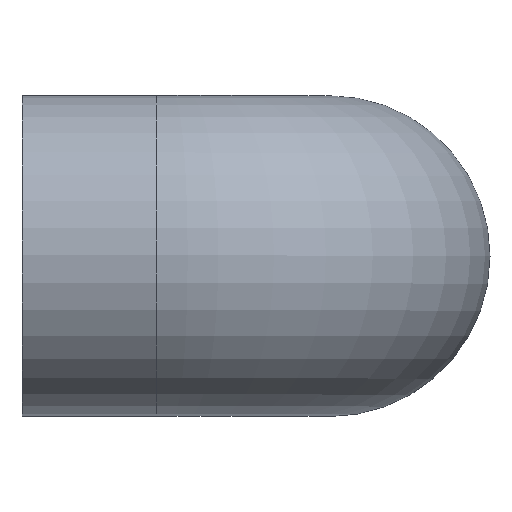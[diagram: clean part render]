
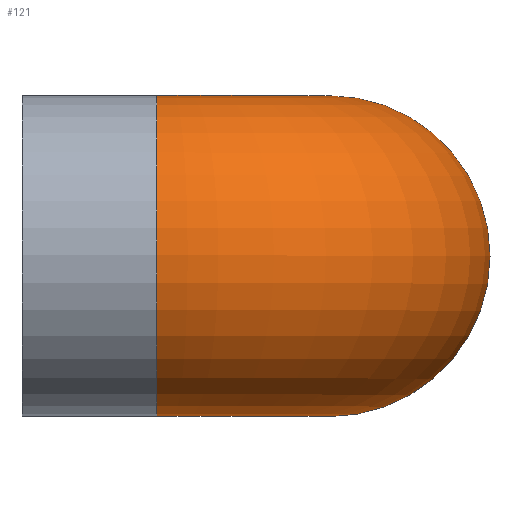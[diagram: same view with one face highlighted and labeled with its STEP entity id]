
A CAD part, top view. The second image highlights one B-rep face of the part: STEP entity #121.
In plain terms, the highlighted toroidal (fillet/blend) face has major radius 27 mm and minor radius 25 mm.
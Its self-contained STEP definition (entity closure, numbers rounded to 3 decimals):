
#29=FACE_BOUND('',#56,.T.);
#39=FACE_OUTER_BOUND('',#55,.T.);
#55=EDGE_LOOP('',(#105));
#56=EDGE_LOOP('',(#106));
#70=CIRCLE('',#140,25.);
#71=CIRCLE('',#142,25.);
#80=VERTEX_POINT('',#210);
#81=VERTEX_POINT('',#213);
#90=EDGE_CURVE('',#80,#80,#70,.T.);
#91=EDGE_CURVE('',#81,#81,#71,.T.);
#105=ORIENTED_EDGE('',*,*,#90,.F.);
#106=ORIENTED_EDGE('',*,*,#91,.T.);
#114=TOROIDAL_SURFACE('',#141,27.,25.);
#121=ADVANCED_FACE('',(#39,#29),#114,.T.);
#140=AXIS2_PLACEMENT_3D('',#211,#175,#176);
#141=AXIS2_PLACEMENT_3D('',#212,#177,#178);
#142=AXIS2_PLACEMENT_3D('',#214,#179,#180);
#175=DIRECTION('center_axis',(-1.,0.,0.));
#176=DIRECTION('ref_axis',(0.,0.,-1.));
#177=DIRECTION('center_axis',(0.,-1.,0.));
#178=DIRECTION('ref_axis',(0.,0.,-1.));
#179=DIRECTION('center_axis',(0.,0.,1.));
#180=DIRECTION('ref_axis',(-1.,0.,0.));
#210=CARTESIAN_POINT('',(-27.,0.,73.));
#211=CARTESIAN_POINT('Origin',(-27.,0.,48.));
#212=CARTESIAN_POINT('Origin',(-27.,0.,21.));
#213=CARTESIAN_POINT('',(25.,0.,21.));
#214=CARTESIAN_POINT('Origin',(0.,0.,21.));
